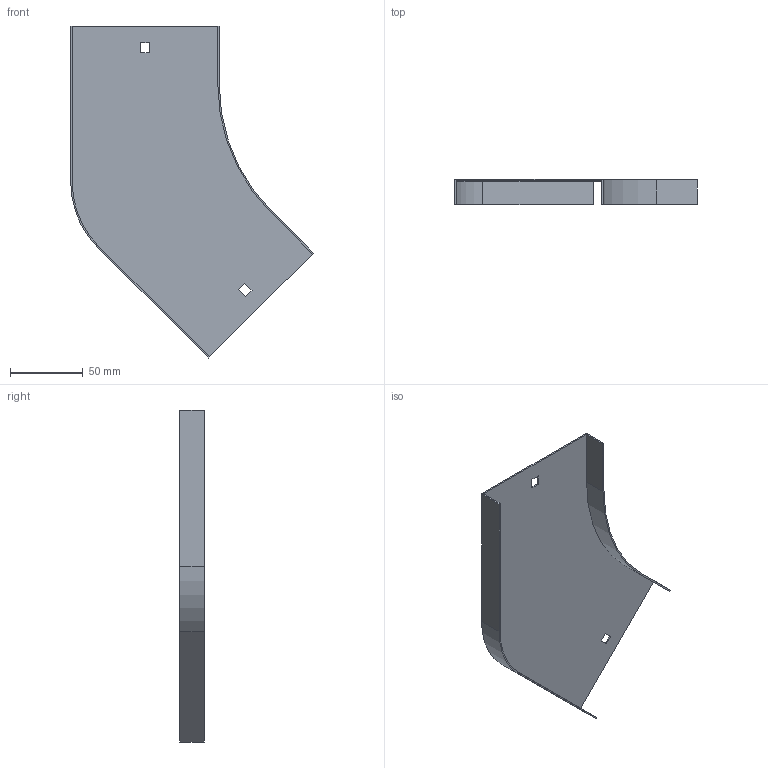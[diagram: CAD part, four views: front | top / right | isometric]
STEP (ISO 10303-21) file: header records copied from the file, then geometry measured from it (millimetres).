
FILE_DESCRIPTION (( 'STEP AP214' ), '1' );
FILE_NAME ('OP4_100.step', '2025-07-16T09:14:06', ( '' ), ( '' ), 'SwSTEP 2.0', 'SolidWorks 2023', '' );
FILE_SCHEMA (( 'AUTOMOTIVE_DESIGN' ));
Length unit declared in the file: millimetre
Products named in the file (1): OP4_100
Bounding box: 166.6 x 17 x 228.09 mm (x, y, z)
Volume: 30177.6 mm3; surface area: 61117 mm2
Topology: 1 solids, 1 shells, 26 faces, 72 edges, 48 vertices
Faces by surface type: plane 22, cylinder 4
Entity records: 855 total; most frequent: CARTESIAN_POINT 147, ORIENTED_EDGE 144, DIRECTION 134, EDGE_CURVE 72, VECTOR 64, LINE 64, VERTEX_POINT 48, AXIS2_PLACEMENT_3D 35
